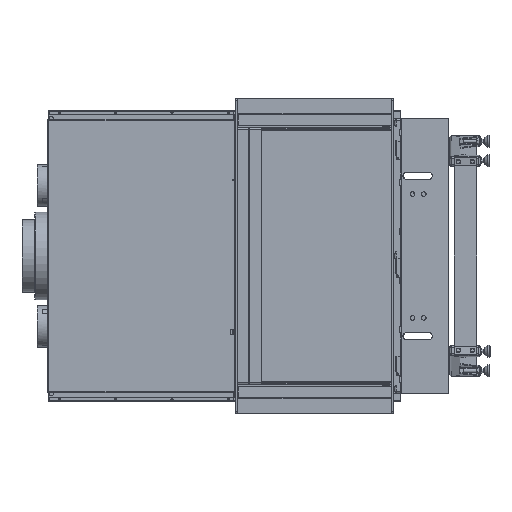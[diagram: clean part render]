
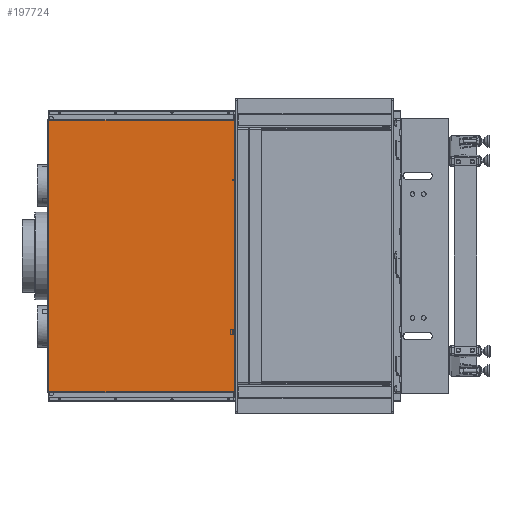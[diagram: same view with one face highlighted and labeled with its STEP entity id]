
A CAD part, left-side view. The second image highlights one B-rep face of the part: STEP entity #197724.
In plain terms, the highlighted planar face has unit normal (-1, 0, 0).
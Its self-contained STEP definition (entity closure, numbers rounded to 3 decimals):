
#60 = VECTOR ( 'NONE', #167335, 1000. ) ;
#5081 = LINE ( 'NONE', #55716, #60 ) ;
#6047 = CARTESIAN_POINT ( 'NONE',  ( -471.75, 672.6, 272.55 ) ) ;
#7290 = CARTESIAN_POINT ( 'NONE',  ( -471.75, 667.6, 482. ) ) ;
#9804 = EDGE_CURVE ( 'NONE', #109848, #143079, #5081, .T. ) ;
#12354 = DIRECTION ( 'NONE',  ( -1., 0., 0. ) ) ;
#13202 = CARTESIAN_POINT ( 'NONE',  ( -471.75, 1328.1, -482. ) ) ;
#13243 = ORIENTED_EDGE ( 'NONE', *, *, #124308, .T. ) ;
#14432 = VERTEX_POINT ( 'NONE', #129104 ) ;
#14609 = CIRCLE ( 'NONE', #195533, 2.5 ) ;
#15205 = VERTEX_POINT ( 'NONE', #184243 ) ;
#30609 = DIRECTION ( 'NONE',  ( -1., 0., 0. ) ) ;
#30725 = FACE_BOUND ( 'NONE', #66922, .T. ) ;
#33551 = VERTEX_POINT ( 'NONE', #206257 ) ;
#35559 = DIRECTION ( 'NONE',  ( 0., 0., -1. ) ) ;
#35645 = EDGE_CURVE ( 'NONE', #141539, #33551, #101348, .T. ) ;
#35695 = LINE ( 'NONE', #7290, #197890 ) ;
#37433 = VERTEX_POINT ( 'NONE', #6047 ) ;
#42296 = AXIS2_PLACEMENT_3D ( 'NONE', #126921, #190901, #192254 ) ;
#43366 = EDGE_CURVE ( 'NONE', #205486, #70612, #144606, .T. ) ;
#43462 = VERTEX_POINT ( 'NONE', #98963 ) ;
#45708 = CARTESIAN_POINT ( 'NONE',  ( -471.75, 672.6, 270.05 ) ) ;
#48362 = EDGE_CURVE ( 'NONE', #70612, #141539, #81600, .T. ) ;
#49715 = EDGE_CURVE ( 'NONE', #33551, #140121, #35695, .T. ) ;
#55716 = CARTESIAN_POINT ( 'NONE',  ( -471.75, 667.6, 482. ) ) ;
#59707 = VECTOR ( 'NONE', #133717, 1000. ) ;
#65894 = CARTESIAN_POINT ( 'NONE',  ( -471.75, 667.6, -275.05 ) ) ;
#66922 = EDGE_LOOP ( 'NONE', ( #133729, #121135 ) ) ;
#69019 = PLANE ( 'NONE',  #196125 ) ;
#70612 = VERTEX_POINT ( 'NONE', #141657 ) ;
#74310 = DIRECTION ( 'NONE',  ( -1., 0., 0. ) ) ;
#74504 = CIRCLE ( 'NONE', #106435, 2.5 ) ;
#75488 = CARTESIAN_POINT ( 'NONE',  ( -471.75, 667.6, -275.05 ) ) ;
#78039 = DIRECTION ( 'NONE',  ( 0., -1., 0. ) ) ;
#81600 = LINE ( 'NONE', #189014, #129069 ) ;
#85024 = DIRECTION ( 'NONE',  ( 1., 0., 0. ) ) ;
#85621 = FACE_BOUND ( 'NONE', #100929, .T. ) ;
#86332 = CARTESIAN_POINT ( 'NONE',  ( -471.75, 672.6, 267.55 ) ) ;
#91035 = EDGE_CURVE ( 'NONE', #156133, #37433, #180320, .T. ) ;
#91070 = DIRECTION ( 'NONE',  ( 0., 0., 1. ) ) ;
#94865 = DIRECTION ( 'NONE',  ( 0., 0., 1. ) ) ;
#96326 = DIRECTION ( 'NONE',  ( 0., 0., -1. ) ) ;
#98963 = CARTESIAN_POINT ( 'NONE',  ( -471.75, 1328.1, -482. ) ) ;
#100929 = EDGE_LOOP ( 'NONE', ( #101466, #128478 ) ) ;
#101348 = LINE ( 'NONE', #172386, #193302 ) ;
#101443 = CARTESIAN_POINT ( 'NONE',  ( -471.75, 1328.1, 482. ) ) ;
#101466 = ORIENTED_EDGE ( 'NONE', *, *, #206497, .F. ) ;
#106435 = AXIS2_PLACEMENT_3D ( 'NONE', #125516, #30609, #94865 ) ;
#108528 = CARTESIAN_POINT ( 'NONE',  ( -471.75, 672.6, -270.05 ) ) ;
#109848 = VERTEX_POINT ( 'NONE', #75488 ) ;
#116505 = CARTESIAN_POINT ( 'NONE',  ( -471.75, 1328.1, -485. ) ) ;
#117045 = CARTESIAN_POINT ( 'NONE',  ( -471.75, 1328.1, 482. ) ) ;
#117865 = DIRECTION ( 'NONE',  ( 0., 1., 0. ) ) ;
#119573 = DIRECTION ( 'NONE',  ( 0., 0., -1. ) ) ;
#121135 = ORIENTED_EDGE ( 'NONE', *, *, #189999, .F. ) ;
#121830 = DIRECTION ( 'NONE',  ( 0., 0., 1. ) ) ;
#124308 = EDGE_CURVE ( 'NONE', #43462, #143079, #134422, .T. ) ;
#125516 = CARTESIAN_POINT ( 'NONE',  ( -471.75, 672.6, 270.05 ) ) ;
#126481 = AXIS2_PLACEMENT_3D ( 'NONE', #45708, #12354, #188669 ) ;
#126921 = CARTESIAN_POINT ( 'NONE',  ( -471.75, 672.6, -270.05 ) ) ;
#127000 = ORIENTED_EDGE ( 'NONE', *, *, #43366, .F. ) ;
#128478 = ORIENTED_EDGE ( 'NONE', *, *, #91035, .F. ) ;
#129069 = VECTOR ( 'NONE', #35559, 1000. ) ;
#129104 = CARTESIAN_POINT ( 'NONE',  ( -471.75, 672.6, -267.55 ) ) ;
#131727 = VECTOR ( 'NONE', #121830, 1000. ) ;
#133717 = DIRECTION ( 'NONE',  ( 0., -1., 0. ) ) ;
#133729 = ORIENTED_EDGE ( 'NONE', *, *, #142332, .F. ) ;
#134422 = LINE ( 'NONE', #13202, #141912 ) ;
#138216 = ORIENTED_EDGE ( 'NONE', *, *, #35645, .F. ) ;
#140121 = VERTEX_POINT ( 'NONE', #178853 ) ;
#141306 = CARTESIAN_POINT ( 'NONE',  ( -471.75, 667.6, 275.05 ) ) ;
#141539 = VERTEX_POINT ( 'NONE', #141306 ) ;
#141561 = ORIENTED_EDGE ( 'NONE', *, *, #49715, .F. ) ;
#141657 = CARTESIAN_POINT ( 'NONE',  ( -471.75, 667.6, 482. ) ) ;
#141912 = VECTOR ( 'NONE', #78039, 1000. ) ;
#142332 = EDGE_CURVE ( 'NONE', #14432, #15205, #170113, .T. ) ;
#142793 = ORIENTED_EDGE ( 'NONE', *, *, #202390, .F. ) ;
#143079 = VERTEX_POINT ( 'NONE', #196609 ) ;
#144606 = LINE ( 'NONE', #117045, #59707 ) ;
#147064 = VECTOR ( 'NONE', #177463, 1000. ) ;
#149680 = ORIENTED_EDGE ( 'NONE', *, *, #185131, .F. ) ;
#156133 = VERTEX_POINT ( 'NONE', #86332 ) ;
#156423 = ORIENTED_EDGE ( 'NONE', *, *, #9804, .F. ) ;
#157006 = LINE ( 'NONE', #65894, #147064 ) ;
#167335 = DIRECTION ( 'NONE',  ( 0., 0., -1. ) ) ;
#170113 = CIRCLE ( 'NONE', #42296, 2.5 ) ;
#172386 = CARTESIAN_POINT ( 'NONE',  ( -471.75, 667.6, 265.05 ) ) ;
#177463 = DIRECTION ( 'NONE',  ( 0., 0., -1. ) ) ;
#178853 = CARTESIAN_POINT ( 'NONE',  ( -471.75, 667.6, -265.05 ) ) ;
#180320 = CIRCLE ( 'NONE', #126481, 2.5 ) ;
#180499 = FACE_OUTER_BOUND ( 'NONE', #189539, .T. ) ;
#184243 = CARTESIAN_POINT ( 'NONE',  ( -471.75, 672.6, -272.55 ) ) ;
#185131 = EDGE_CURVE ( 'NONE', #140121, #109848, #157006, .T. ) ;
#188669 = DIRECTION ( 'NONE',  ( 0., 0., 1. ) ) ;
#189014 = CARTESIAN_POINT ( 'NONE',  ( -471.75, 667.6, 482. ) ) ;
#189539 = EDGE_LOOP ( 'NONE', ( #190501, #127000, #142793, #13243, #156423, #149680, #141561, #138216 ) ) ;
#189999 = EDGE_CURVE ( 'NONE', #15205, #14432, #14609, .T. ) ;
#190501 = ORIENTED_EDGE ( 'NONE', *, *, #48362, .F. ) ;
#190901 = DIRECTION ( 'NONE',  ( -1., 0., 0. ) ) ;
#192254 = DIRECTION ( 'NONE',  ( 0., 0., 1. ) ) ;
#193302 = VECTOR ( 'NONE', #96326, 1000. ) ;
#193952 = LINE ( 'NONE', #202507, #131727 ) ;
#195533 = AXIS2_PLACEMENT_3D ( 'NONE', #108528, #74310, #91070 ) ;
#196125 = AXIS2_PLACEMENT_3D ( 'NONE', #116505, #85024, #117865 ) ;
#196609 = CARTESIAN_POINT ( 'NONE',  ( -471.75, 667.6, -482. ) ) ;
#197724 = ADVANCED_FACE ( 'NONE', ( #85621, #30725, #180499 ), #69019, .F. ) ;
#197890 = VECTOR ( 'NONE', #119573, 1000. ) ;
#202390 = EDGE_CURVE ( 'NONE', #43462, #205486, #193952, .T. ) ;
#202507 = CARTESIAN_POINT ( 'NONE',  ( -471.75, 1328.1, -485. ) ) ;
#205486 = VERTEX_POINT ( 'NONE', #101443 ) ;
#206257 = CARTESIAN_POINT ( 'NONE',  ( -471.75, 667.6, 265.05 ) ) ;
#206497 = EDGE_CURVE ( 'NONE', #37433, #156133, #74504, .T. ) ;
